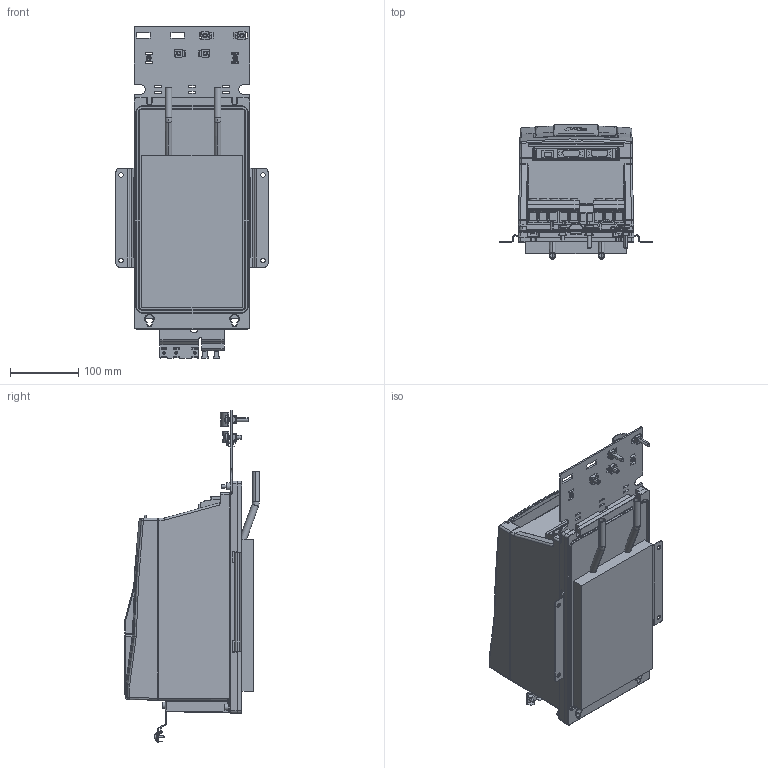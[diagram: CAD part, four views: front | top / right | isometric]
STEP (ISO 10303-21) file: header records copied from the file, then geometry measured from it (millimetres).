
FILE_DESCRIPTION (( 'STEP AP214' ), '1' );
FILE_NAME ('F6-3 TW5-A011.STEP', '2022-05-25T09:38:12', ( '' ), ( '' ), 'SwSTEP 2.0', 'SolidWorks 2019', '' );
FILE_SCHEMA (( 'AUTOMOTIVE_DESIGN' ));
Length unit declared in the file: millimetre
Products named in the file (13): Kundenmodell^10040482_000; 10068340_000_Leistungsteil TW5 (Kundenmodell); 10061030_000_Kundenmodell; 10040482_000_Kundenmodell; Kundenmodell^10059764_000; F6-3 TW5-A011; 10047114_000_Kundenmodell; Kundenmodell^10044643_000; Kundenmodell^10047114_000; Kundenmodell^10061030_000; 10059764_000_Blindabdeckung (Kundenmodell); Kundenmodell^10068340_000; 10044643_000_Kundenmodell
Assembly tree (12 placements, depth 4):
  F6-3 TW5-A011
    10068340_000_Leistungsteil TW5 (Kundenmodell)
      Kundenmodell^10068340_000
    10040482_000_Kundenmodell
      Kundenmodell^10040482_000
    10044643_000_Kundenmodell
      10059764_000_Blindabdeckung (Kundenmodell)
        Kundenmodell^10059764_000
      Kundenmodell^10044643_000
    10047114_000_Kundenmodell
      Kundenmodell^10047114_000
    10061030_000_Kundenmodell
      Kundenmodell^10061030_000
Bounding box: 223 x 197.4 x 486.8 mm (x, y, z)
Volume: 8056912.4 mm3; surface area: 657651.1 mm2
Topology: 16 solids, 24 shells, 3438 faces, 9011 edges, 5682 vertices
Faces by surface type: plane 1582, cylinder 1163, bspline 373, torus 141, cone 121, sphere 58
Entity records: 119497 total; most frequent: CARTESIAN_POINT 33020, ORIENTED_EDGE 17894, DIRECTION 16344, EDGE_CURVE 8947, VERTEX_POINT 5681, AXIS2_PLACEMENT_3D 5672, VECTOR 5000, LINE 5000
